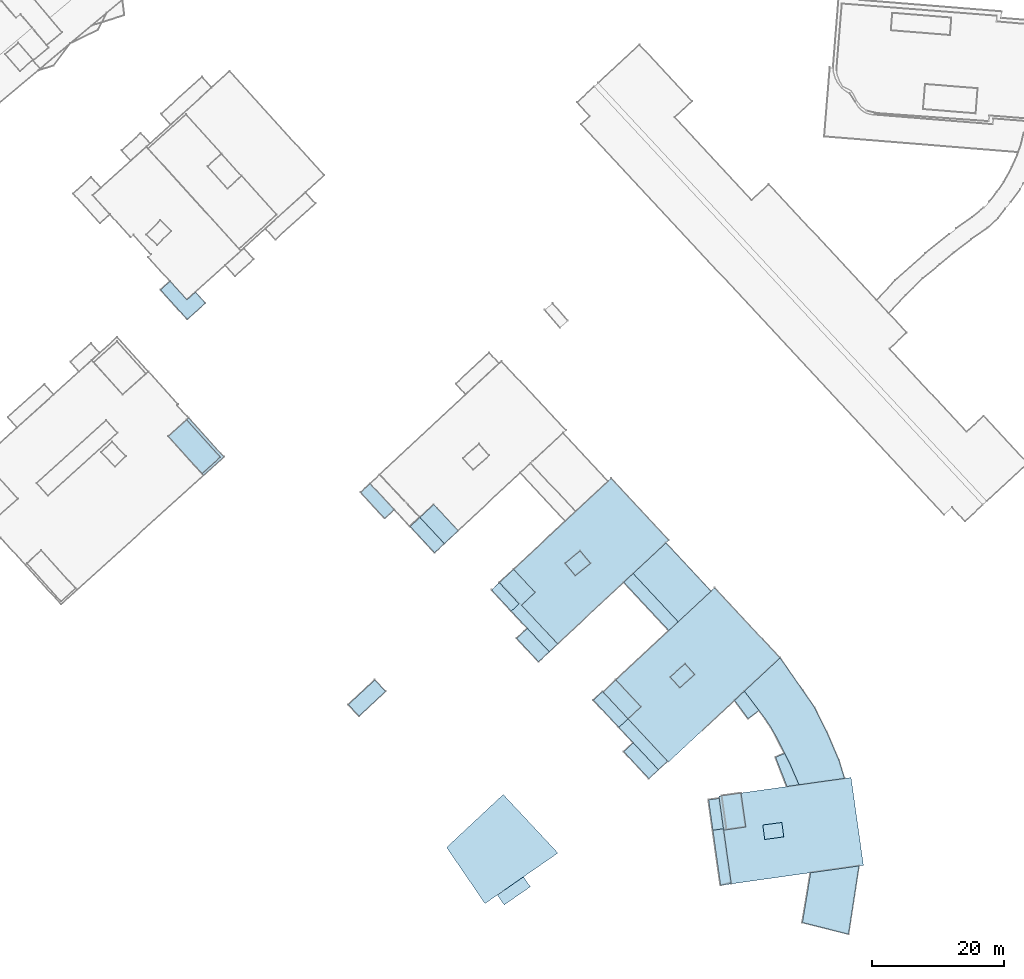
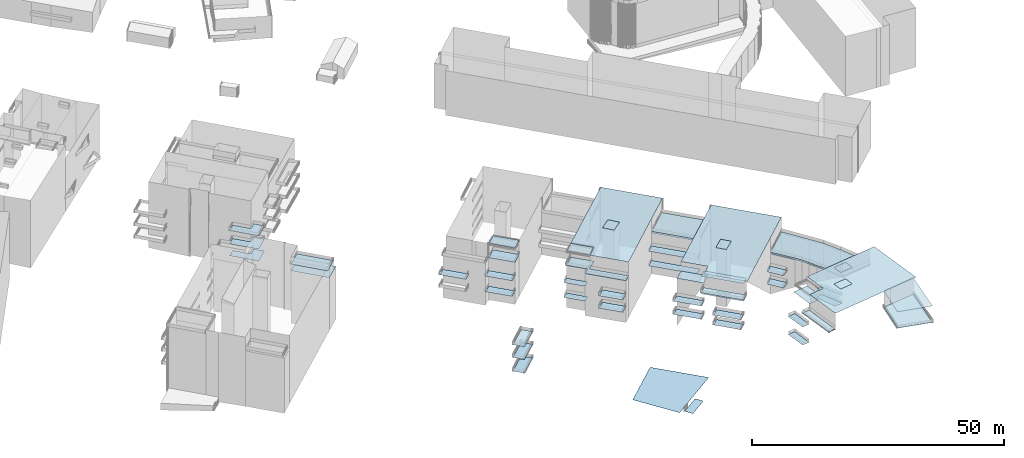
# Not in any storey, part 127 of 136: 105 roofs.
"""IFC2X3 building model written with IfcOpenShell, lengths in metres."""

from ifc_helpers import new_model, entity, si_unit, converted_unit, frame, origin, place, context, subcontext, project, spatial, face_set, surface_model, element, save


model = new_model("IFC2X3")

# Units and contexts
model_context = context("Model", 3, precision=1e-05, world=origin())
body_context = subcontext(model_context, "Body", "Model", "MODEL_VIEW")
ifc_project = project(units=[converted_unit("PLANEANGLEUNIT", "DEGREE", entity("IfcRatioMeasure", 0.0174532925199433), si_unit("PLANEANGLEUNIT", "RADIAN"), dimensions=[0, 0, 0, 0, 0, 0, 0]), si_unit("AREAUNIT", "SQUARE_METRE"), si_unit("LENGTHUNIT", "METRE")], contexts=[model_context])

# Site, building
site_placement = place(None, origin())
site = spatial("IfcSite", under=ifc_project, at=site_placement, Name="_site", CompositionType="ELEMENT")
building_1_placement = place(site_placement, origin())
building_1 = spatial("IfcBuilding", under=site, at=building_1_placement, Name="_building", CompositionType="ELEMENT")

# Roofs
roof_1_placement = place(building_1_placement, origin())
element("IfcRoof", 1, at=roof_1_placement, inside=building_1, Name="Roof", ShapeType="NOTDEFINED", context=body_context, shape_type="SurfaceModel", body=[
    surface_model("IfcFaceBasedSurfaceModel", [(144.0, -39.33, 48.29), (142.61, -40.63, 48.29), (148.62, -47.07, 48.29), (150.01, -45.77, 48.29)], [face_set([[[0, 1, 2, 3]]])]),
])
roof_2_placement = place(building_1_placement, origin())
element("IfcRoof", 2, at=roof_2_placement, inside=building_1, Name="Roof", ShapeType="NOTDEFINED", context=body_context, shape_type="SurfaceModel", body=[
    surface_model("IfcFaceBasedSurfaceModel", [(124.14, -66.09, 42.86), (125.22, -65.34, 42.86), (128.11, -63.34, 42.86), (133.34, -59.72, 42.86), (125.03, -50.83, 42.86), (116.43, -58.87, 42.86), (122.26, -67.399, 42.86)], [face_set([[[0, 1, 2, 3, 4, 5, 6]]])]),
])
for number, where, name in (
    (3, (0.0, 0.0, 0.0), "Roof"),
    (4, (0.0, 0.0, 0.0), "Roof"),
):
    element("IfcRoof", number, at=place(building_1_placement, frame(where)), inside=building_1, Name=name, ShapeType="NOTDEFINED", context=body_context, shape_type="SurfaceModel", body=[
        surface_model("IfcFaceBasedSurfaceModel", [(161.68, -35.13, 44.99), (160.18, -36.52, 44.99), (162.24, -39.3, 44.99), (163.89, -38.06, 44.99)], [face_set([[[0, 1, 2, 3]]])]),
    ])
for number, where, name in (
    (5, (0.0, 0.0, 0.0), "Roof"),
    (6, (0.0, 0.0, 0.0), "Roof"),
):
    element("IfcRoof", number, at=place(building_1_placement, frame(where)), inside=building_1, Name=name, ShapeType="NOTDEFINED", context=body_context, shape_type="SurfaceModel", body=[
        surface_model("IfcFaceBasedSurfaceModel", [(144.0, -39.33, 42.17), (140.13, -35.18, 42.17), (138.73, -36.479, 42.17), (142.61, -40.63, 42.17)], [face_set([[[0, 1, 2, 3]]])]),
    ])
for number, where, name in (
    (7, (0.0, 0.0, 0.0), "Roof"),
    (8, (0.0, 0.0, 0.0), "Roof"),
):
    element("IfcRoof", number, at=place(building_1_placement, frame(where)), inside=building_1, Name=name, ShapeType="NOTDEFINED", context=body_context, shape_type="SurfaceModel", body=[
        surface_model("IfcFaceBasedSurfaceModel", [(148.62, -47.07, 42.74), (144.79, -42.97, 42.74), (143.35, -44.31, 42.74), (147.18, -48.42, 42.74)], [face_set([[[0, 1, 2, 3]]])]),
    ])
for number, where, name in (
    (9, (0.0, 0.0, 0.0), "Roof"),
    (10, (0.0, 0.0, 0.0), "Roof"),
):
    element("IfcRoof", number, at=place(building_1_placement, frame(where)), inside=building_1, Name=name, ShapeType="NOTDEFINED", context=body_context, shape_type="SurfaceModel", body=[
        surface_model("IfcFaceBasedSurfaceModel", [(124.45, -18.64, 41.54), (123.26, -19.75, 41.54), (126.26, -22.96, 41.54), (127.44, -21.86, 41.54)], [face_set([[[0, 1, 2, 3]]])]),
    ])
for number, where, name in (
    (11, (0.0, 0.0, 0.0), "Roof"),
    (12, (0.0, 0.0, 0.0), "Roof"),
):
    element("IfcRoof", number, at=place(building_1_placement, frame(where)), inside=building_1, Name=name, ShapeType="NOTDEFINED", context=body_context, shape_type="SurfaceModel", body=[
        surface_model("IfcFaceBasedSurfaceModel", [(169.98, -49.36, 41.78), (168.54, -46.04, 41.78), (167.8, -44.58, 41.78), (166.41, -45.18, 41.78), (168.15, -49.62, 41.78)], [face_set([[[0, 1, 2, 3, 4]]])]),
    ])
for number, where, name in (
    (13, (0.0, 0.0, 0.0), "Roof"),
    (14, (0.0, 0.0, 0.0), "Roof"),
):
    element("IfcRoof", number, at=place(building_1_placement, frame(where)), inside=building_1, Name=name, ShapeType="NOTDEFINED", context=body_context, shape_type="SurfaceModel", body=[
        surface_model("IfcFaceBasedSurfaceModel", [(161.68, -35.13, 42.01), (160.18, -36.52, 42.01), (162.24, -39.3, 42.01), (163.89, -38.06, 42.01)], [face_set([[[0, 1, 2, 3]]])]),
    ])
for number, where, name in (
    (15, (0.0, 0.0, 0.0), "Roof"),
    (16, (0.0, 0.0, 0.0), "Roof"),
):
    element("IfcRoof", number, at=place(building_1_placement, frame(where)), inside=building_1, Name=name, ShapeType="NOTDEFINED", context=body_context, shape_type="SurfaceModel", body=[
        surface_model("IfcFaceBasedSurfaceModel", [(104.82, -3.59, 45.01), (103.37, -4.939, 45.01), (107.05, -8.89, 45.01), (108.5, -7.54, 45.01)], [face_set([[[0, 1, 2, 3]]])]),
    ])
roof_3_placement = place(building_1_placement, origin())
element("IfcRoof", 17, at=roof_3_placement, inside=building_1, Name="Roof", ShapeType="NOTDEFINED", context=body_context, shape_type="SurfaceModel", body=[
    surface_model("IfcFaceBasedSurfaceModel", [(140.97, -3.229, 51.59), (136.06, -7.81, 51.59), (126.62, -16.62, 51.59), (129.9, -20.13, 51.59), (127.82, -22.06, 51.59), (133.31, -27.95, 51.59), (144.77, -17.25, 51.59), (149.76, -12.6, 51.59), (150.21, -12.18, 51.59), (141.45, -2.78, 51.59)], [face_set([[[0, 1, 2, 3, 4, 5, 6, 7, 8, 9]]])]),
])
for number, where, name in (
    (18, (0.0, 0.0, 0.0), "Roof"),
    (19, (0.0, 0.0, 0.0), "Roof"),
):
    element("IfcRoof", number, at=place(building_1_placement, frame(where)), inside=building_1, Name=name, ShapeType="NOTDEFINED", context=body_context, shape_type="SurfaceModel", body=[
        surface_model("IfcFaceBasedSurfaceModel", [(169.98, -49.36, 43.64), (168.54, -46.04, 43.64), (167.8, -44.58, 43.64), (166.41, -45.18, 43.64), (168.15, -49.62, 43.64)], [face_set([[[0, 1, 2, 3, 4]]])]),
    ])
for number, where, name in (
    (20, (0.0, 0.0, 0.0), "Roof"),
    (21, (0.0, 0.0, 0.0), "Roof"),
):
    element("IfcRoof", number, at=place(building_1_placement, frame(where)), inside=building_1, Name=name, ShapeType="NOTDEFINED", context=body_context, shape_type="SurfaceModel", body=[
        surface_model("IfcFaceBasedSurfaceModel", [(148.62, -47.07, 45.12), (144.79, -42.97, 45.12), (143.35, -44.31, 45.12), (147.18, -48.42, 45.12)], [face_set([[[0, 1, 2, 3]]])]),
    ])
for number, where, name in (
    (22, (0.0, 0.0, 0.0), "Roof"),
    (23, (0.0, 0.0, 0.0), "Roof"),
):
    element("IfcRoof", number, at=place(building_1_placement, frame(where)), inside=building_1, Name=name, ShapeType="NOTDEFINED", context=body_context, shape_type="SurfaceModel", body=[
        surface_model("IfcFaceBasedSurfaceModel", [(105.53, -33.43, 45.18), (101.51, -37.17, 45.18), (103.13, -38.91, 45.18), (107.15, -35.16, 45.18)], [face_set([[[0, 1, 2, 3]]])]),
    ])
for number, where, name in (
    (24, (0.0, 0.0, 0.0), "Roof"),
    (25, (0.0, 0.0, 0.0), "Roof"),
):
    element("IfcRoof", number, at=place(building_1_placement, frame(where)), inside=building_1, Name=name, ShapeType="NOTDEFINED", context=body_context, shape_type="SurfaceModel", body=[
        surface_model("IfcFaceBasedSurfaceModel", [(105.53, -33.43, 41.88), (101.51, -37.17, 41.88), (103.13, -38.91, 41.88), (107.15, -35.16, 41.88)], [face_set([[[0, 1, 2, 3]]])]),
    ])
for number, where, name in (
    (26, (0.0, 0.0, 0.0), "Roof"),
    (27, (0.0, 0.0, 0.0), "Roof"),
):
    element("IfcRoof", number, at=place(building_1_placement, frame(where)), inside=building_1, Name=name, ShapeType="NOTDEFINED", context=body_context, shape_type="SurfaceModel", body=[
        surface_model("IfcFaceBasedSurfaceModel", [(158.5, -56.03, 40.37), (157.85, -51.41, 40.37), (156.23, -51.64, 40.37), (156.88, -56.26, 40.37)], [face_set([[[0, 1, 2, 3]]])]),
    ])
for number, where, name in (
    (28, (0.0, 0.0, 0.0), "Roof"),
    (29, (0.0, 0.0, 0.0), "Roof"),
):
    element("IfcRoof", number, at=place(building_1_placement, frame(where)), inside=building_1, Name=name, ShapeType="NOTDEFINED", context=body_context, shape_type="SurfaceModel", body=[
        surface_model("IfcFaceBasedSurfaceModel", [(112.38, -8.729, 45.18), (110.9, -10.11, 45.18), (114.61, -14.09, 45.18), (116.09, -12.71, 45.18)], [face_set([[[0, 1, 2, 3]]])]),
    ])
for number, where, name in (
    (30, (0.0, 0.0, 0.0), "Roof"),
    (31, (0.0, 0.0, 0.0), "Roof"),
):
    element("IfcRoof", number, at=place(building_1_placement, frame(where)), inside=building_1, Name=name, ShapeType="NOTDEFINED", context=body_context, shape_type="SurfaceModel", body=[
        surface_model("IfcFaceBasedSurfaceModel", [(105.53, -33.43, 48.27), (101.51, -37.17, 48.27), (103.13, -38.91, 48.27), (107.15, -35.16, 48.27)], [face_set([[[0, 1, 2, 3]]])]),
    ])
for number, where, name in (
    (32, (0.0, 0.0, 0.0), "Roof"),
    (33, (0.0, 0.0, 0.0), "Roof"),
):
    element("IfcRoof", number, at=place(building_1_placement, frame(where)), inside=building_1, Name=name, ShapeType="NOTDEFINED", context=body_context, shape_type="SurfaceModel", body=[
        surface_model("IfcFaceBasedSurfaceModel", [(128.7, -25.58, 42.04), (127.08, -27.09, 42.04), (130.41, -30.66, 42.04), (132.03, -29.149, 42.04)], [face_set([[[0, 1, 2, 3]]])]),
    ])
for number, where, name in (
    (34, (0.0, 0.0, 0.0), "Roof"),
    (35, (0.0, 0.0, 0.0), "Roof"),
):
    element("IfcRoof", number, at=place(building_1_placement, frame(where)), inside=building_1, Name=name, ShapeType="NOTDEFINED", context=body_context, shape_type="SurfaceModel", body=[
        surface_model("IfcFaceBasedSurfaceModel", [(158.5, -56.03, 44.74), (157.85, -51.41, 44.74), (156.23, -51.64, 44.74), (156.88, -56.26, 44.74)], [face_set([[[0, 1, 2, 3]]])]),
    ])
roof_4_placement = place(building_1_placement, origin())
element("IfcRoof", 36, at=roof_4_placement, inside=building_1, Name="Roof", ShapeType="NOTDEFINED", context=body_context, shape_type="SurfaceModel", body=[
    surface_model("IfcFaceBasedSurfaceModel", [(158.5, -56.03, 49.79), (158.53, -56.24, 49.79), (161.89, -55.76, 49.79), (161.16, -50.6, 49.79), (157.81, -51.07, 49.79)], [face_set([[[0, 1, 2, 3, 4]]])]),
])
for number, where, name in (
    (37, (0.0, 0.0, 0.0), "Roof"),
    (38, (0.0, 0.0, 0.0), "Roof"),
):
    element("IfcRoof", number, at=place(building_1_placement, frame(where)), inside=building_1, Name=name, ShapeType="NOTDEFINED", context=body_context, shape_type="SurfaceModel", body=[
        surface_model("IfcFaceBasedSurfaceModel", [(144.77, -17.25, 41.46), (143.35, -18.57, 41.46), (150.2, -25.91, 41.46), (151.62, -24.59, 41.46)], [face_set([[[0, 1, 2, 3]]])]),
    ])
for number, where, name in (
    (39, (0.0, 0.0, 0.0), "Roof"),
    (40, (0.0, 0.0, 0.0), "Roof"),
):
    element("IfcRoof", number, at=place(building_1_placement, frame(where)), inside=building_1, Name=name, ShapeType="NOTDEFINED", context=body_context, shape_type="SurfaceModel", body=[
        surface_model("IfcFaceBasedSurfaceModel", [(112.38, -8.729, 41.4), (110.9, -10.11, 41.4), (114.61, -14.09, 41.4), (116.09, -12.71, 41.4)], [face_set([[[0, 1, 2, 3]]])]),
    ])
roof_5_placement = place(building_1_placement, origin())
element("IfcRoof", 41, at=roof_5_placement, inside=building_1, Name="Roof", ShapeType="NOTDEFINED", context=body_context, shape_type="SurfaceModel", body=[
    surface_model("IfcFaceBasedSurfaceModel", [(144.0, -39.33, 49.64), (145.97, -37.49, 49.64), (142.16, -33.42, 49.64), (140.2, -35.25, 49.64)], [face_set([[[0, 1, 2, 3]]])]),
])
for number, where, name in (
    (42, (0.0, 0.0, 0.0), "Roof"),
    (43, (0.0, 0.0, 0.0), "Roof"),
):
    element("IfcRoof", number, at=place(building_1_placement, frame(where)), inside=building_1, Name=name, ShapeType="NOTDEFINED", context=body_context, shape_type="SurfaceModel", body=[
        surface_model("IfcFaceBasedSurfaceModel", [(124.45, -18.64, 45.14), (123.26, -19.75, 45.14), (126.26, -22.96, 45.14), (127.44, -21.86, 45.14)], [face_set([[[0, 1, 2, 3]]])]),
    ])
for number, where, name in (
    (44, (0.0, 0.0, 0.0), "Roof"),
    (45, (0.0, 0.0, 0.0), "Roof"),
):
    element("IfcRoof", number, at=place(building_1_placement, frame(where)), inside=building_1, Name=name, ShapeType="NOTDEFINED", context=body_context, shape_type="SurfaceModel", body=[
        surface_model("IfcFaceBasedSurfaceModel", [(128.7, -25.58, 45.03), (127.08, -27.09, 45.03), (130.41, -30.66, 45.03), (132.03, -29.149, 45.03)], [face_set([[[0, 1, 2, 3]]])]),
    ])
for number, where, name in (
    (46, (0.0, 0.0, 0.0), "Roof"),
    (47, (0.0, 0.0, 0.0), "Roof"),
):
    element("IfcRoof", number, at=place(building_1_placement, frame(where)), inside=building_1, Name=name, ShapeType="NOTDEFINED", context=body_context, shape_type="SurfaceModel", body=[
        surface_model("IfcFaceBasedSurfaceModel", [(144.0, -39.33, 45.37), (140.13, -35.18, 45.37), (138.73, -36.479, 45.37), (142.61, -40.63, 45.37)], [face_set([[[0, 1, 2, 3]]])]),
    ])
for number, where, name in (
    (48, (0.0, 0.0, 0.0), "Roof"),
    (49, (0.0, 0.0, 0.0), "Roof"),
):
    element("IfcRoof", number, at=place(building_1_placement, frame(where)), inside=building_1, Name=name, ShapeType="NOTDEFINED", context=body_context, shape_type="SurfaceModel", body=[
        surface_model("IfcFaceBasedSurfaceModel", [(144.77, -17.25, 44.99), (143.35, -18.57, 44.99), (150.2, -25.91, 44.99), (151.62, -24.59, 44.99)], [face_set([[[0, 1, 2, 3]]])]),
    ])
roof_6_placement = place(building_1_placement, origin())
element("IfcRoof", 50, at=roof_6_placement, inside=building_1, Name="Roof", ShapeType="NOTDEFINED", context=body_context, shape_type="SurfaceModel", body=[
    surface_model("IfcFaceBasedSurfaceModel", [(114.48, -6.77, 48.29), (112.38, -8.729, 48.29), (116.09, -12.71, 48.29), (118.19, -10.75, 48.29)], [face_set([[[0, 1, 2, 3]]])]),
])
roof_7_placement = place(building_1_placement, origin())
element("IfcRoof", 51, at=roof_7_placement, inside=building_1, Name="Roof", ShapeType="NOTDEFINED", context=body_context, shape_type="SurfaceModel", body=[
    surface_model("IfcFaceBasedSurfaceModel", [(133.31, -27.95, 48.26), (127.82, -22.06, 48.26), (129.9, -20.13, 48.26), (126.62, -16.62, 48.26), (124.45, -18.64, 48.26), (127.44, -21.86, 48.26), (126.26, -22.96, 48.26), (132.03, -29.149, 48.26)], [face_set([[[0, 1, 2, 3, 4, 5, 6, 7]]])]),
])
roof_8_placement = place(building_1_placement, origin())
element("IfcRoof", 52, at=roof_8_placement, inside=building_1, Name="Roof", ShapeType="NOTDEFINED", context=body_context, shape_type="SurfaceModel", body=[
    surface_model("IfcFaceBasedSurfaceModel", [(128.11, -63.34, 41.75), (124.14, -66.09, 41.75), (125.18, -67.6, 41.75), (129.15, -64.85, 41.75)], [face_set([[[0, 1, 2, 3]]])]),
])
roof_9_placement = place(building_1_placement, origin())
element("IfcRoof", 53, at=roof_9_placement, inside=building_1, Name="Roof", ShapeType="NOTDEFINED", context=body_context, shape_type="SurfaceModel", body=[
    surface_model("IfcFaceBasedSurfaceModel", [(142.16, -33.42, 51.89), (145.97, -37.49, 51.89), (144.0, -39.33, 51.89), (150.01, -45.77, 51.89), (150.13, -45.899, 51.89), (161.68, -35.13, 51.89), (167.11, -30.07, 51.89), (157.17, -19.42, 51.89), (156.61, -19.939, 51.89), (151.62, -24.59, 51.89)], [face_set([[[0, 1, 2, 3, 4, 5, 6, 7, 8, 9]]])]),
])
roof_10_placement = place(building_1_placement, origin())
element("IfcRoof", 54, at=roof_10_placement, inside=building_1, Name="Roof", ShapeType="NOTDEFINED", context=body_context, shape_type="SurfaceModel", body=[
    surface_model("IfcFaceBasedSurfaceModel", [(161.16, -50.6, 52.04), (161.89, -55.76, 52.04), (158.53, -56.24, 52.04), (159.68, -64.41, 52.04), (171.74, -62.71, 52.04), (173.4, -62.479, 52.04), (179.09, -61.68, 52.04), (179.76, -61.58, 52.04), (177.88, -48.25, 52.04), (176.89, -48.39, 52.04), (169.98, -49.36, 52.04)], [face_set([[[0, 1, 2, 3, 4, 5, 6, 7, 8, 9, 10]]])]),
])
roof_11_placement = place(building_1_placement, origin())
element("IfcRoof", 55, at=roof_11_placement, inside=building_1, Name="Roof", ShapeType="NOTDEFINED", context=body_context, shape_type="SurfaceModel", body=[
    surface_model("IfcFaceBasedSurfaceModel", [(144.77, -17.25, 48.51), (151.62, -24.59, 48.51), (156.61, -19.939, 48.51), (149.76, -12.6, 48.51)], [face_set([[[0, 1, 2, 3]]])]),
])
roof_12_placement = place(building_1_placement, origin())
element("IfcRoof", 56, at=roof_12_placement, inside=building_1, Name="Roof", ShapeType="NOTDEFINED", context=body_context, shape_type="SurfaceModel", body=[
    surface_model("IfcFaceBasedSurfaceModel", [(156.61, -19.939, 48.12), (149.76, -12.6, 48.12), (144.77, -17.25, 48.12), (151.62, -24.59, 48.12)], [face_set([[[0, 1, 2, 3]]])]),
])
roof_13_placement = place(building_1_placement, origin())
element("IfcRoof", 57, at=roof_13_placement, inside=building_1, Name="Roof", ShapeType="NOTDEFINED", context=body_context, shape_type="SurfaceModel", body=[
    surface_model("IfcFaceBasedSurfaceModel", [(176.89, -48.39, 48.04), (176.07, -45.7, 48.04), (174.2, -41.33, 48.04), (172.37, -37.66, 48.04), (170.61, -35.09, 48.04), (167.11, -30.07, 48.04), (161.68, -35.13, 48.04), (164.85, -39.33, 48.04), (165.71, -40.63, 48.04), (166.51, -42.04, 48.04), (167.36, -43.72, 48.04), (168.54, -46.04, 48.04), (169.98, -49.36, 48.04)], [face_set([[[0, 1, 2, 3, 4, 5, 6, 7, 8, 9, 10, 11, 12]]])]),
])

# Building
building_2_placement = place(site_placement, origin())
building_2 = spatial("IfcBuilding", under=site, at=building_2_placement, Name="_building", CompositionType="ELEMENT")

# Roofs
roof_14_placement = place(building_2_placement, origin())
element("IfcRoof", 58, at=roof_14_placement, inside=building_2, Name="Roof", ShapeType="NOTDEFINED", context=body_context, shape_type="SurfaceModel", body=[
    surface_model("IfcFaceBasedSurfaceModel", [(152.68, -30.95, 52.15), (150.4, -32.979, 52.15), (151.88, -34.63, 52.15), (154.15, -32.6, 52.15)], [face_set([[[0, 1, 2, 3]]])]),
])
roof_15_placement = place(building_2_placement, origin())
element("IfcRoof", 59, at=roof_15_placement, inside=building_2, Name="Roof", ShapeType="NOTDEFINED", context=body_context, shape_type="SurfaceModel", body=[
    surface_model("IfcFaceBasedSurfaceModel", [(142.16, -33.42, 51.89), (145.97, -37.49, 51.89), (144.0, -39.33, 51.89), (150.01, -45.77, 51.89), (150.13, -45.899, 51.89), (161.68, -35.13, 51.89), (167.11, -30.07, 51.89), (157.17, -19.42, 51.89), (156.61, -19.939, 51.89), (151.62, -24.59, 51.89)], [face_set([[[0, 1, 2, 3, 4, 5, 6, 7, 8, 9]]])]),
])
for number, where, name in (
    (60, (0.0, 0.0, 0.0), "Roof"),
    (61, (0.0, 0.0, 0.0), "Roof"),
):
    element("IfcRoof", number, at=place(building_2_placement, frame(where)), inside=building_2, Name=name, ShapeType="NOTDEFINED", context=body_context, shape_type="SurfaceModel", body=[
        surface_model("IfcFaceBasedSurfaceModel", [(142.61, -40.63, 48.58), (148.62, -47.07, 48.58), (150.01, -45.77, 48.58), (144.0, -39.33, 48.58)], [face_set([[[0, 1, 2, 3]]])]),
    ])
for number, where, name in (
    (62, (0.0, 0.0, 0.0), "Roof"),
    (63, (0.0, 0.0, 0.0), "Roof"),
):
    element("IfcRoof", number, at=place(building_2_placement, frame(where)), inside=building_2, Name=name, ShapeType="NOTDEFINED", context=body_context, shape_type="SurfaceModel", body=[
        surface_model("IfcFaceBasedSurfaceModel", [(169.98, -49.36, 48.41), (176.89, -48.39, 48.41), (176.07, -45.7, 48.41), (174.2, -41.33, 48.41), (172.37, -37.66, 48.41), (167.11, -30.07, 48.41), (161.68, -35.13, 48.41), (164.85, -39.33, 48.41), (165.71, -40.63, 48.41), (166.51, -42.04, 48.41), (167.8, -44.58, 48.41), (168.42, -45.8, 48.41), (168.54, -46.04, 48.41)], [face_set([[[0, 1, 2, 3, 4, 5, 6, 7, 8, 9, 10, 11, 12]]])]),
    ])
roof_16_placement = place(building_2_placement, origin())
element("IfcRoof", 64, at=roof_16_placement, inside=building_2, Name="Roof", ShapeType="NOTDEFINED", context=body_context, shape_type="SurfaceModel", body=[
    surface_model("IfcFaceBasedSurfaceModel", [(142.61, -40.63, 52.58), (148.62, -47.07, 52.58), (150.01, -45.77, 52.58), (144.0, -39.33, 52.58)], [face_set([[[0, 1, 2, 3]]])]),
])
roof_17_placement = place(building_2_placement, origin())
element("IfcRoof", 65, at=roof_17_placement, inside=building_2, Name="Roof", ShapeType="NOTDEFINED", context=body_context, shape_type="SurfaceModel", body=[
    surface_model("IfcFaceBasedSurfaceModel", [(176.89, -48.39, 48.04), (176.07, -45.7, 48.04), (174.2, -41.33, 48.04), (172.37, -37.66, 48.04), (170.61, -35.09, 48.04), (167.11, -30.07, 48.04), (161.68, -35.13, 48.04), (164.85, -39.33, 48.04), (165.71, -40.63, 48.04), (166.51, -42.04, 48.04), (167.36, -43.72, 48.04), (168.54, -46.04, 48.04), (169.98, -49.36, 48.04)], [face_set([[[0, 1, 2, 3, 4, 5, 6, 7, 8, 9, 10, 11, 12]]])]),
])
roof_18_placement = place(building_2_placement, origin())
element("IfcRoof", 66, at=roof_18_placement, inside=building_2, Name="Roof", ShapeType="NOTDEFINED", context=body_context, shape_type="SurfaceModel", body=[
    surface_model("IfcFaceBasedSurfaceModel", [(152.68, -30.95, 52.15), (150.4, -32.979, 52.15), (151.88, -34.63, 52.15), (154.15, -32.6, 52.15)], [face_set([[[0, 1, 2, 3]]])]),
])

# Building
building_3_placement = place(site_placement, origin())
building_3 = spatial("IfcBuilding", under=site, at=building_3_placement, Name="_building", CompositionType="ELEMENT")

# Roofs
roof_19_placement = place(building_3_placement, origin())
element("IfcRoof", 67, at=roof_19_placement, inside=building_3, Name="Roof", ShapeType="NOTDEFINED", context=body_context, shape_type="SurfaceModel", body=[
    surface_model("IfcFaceBasedSurfaceModel", [(114.48, -6.77, 48.29), (112.38, -8.729, 48.29), (116.09, -12.71, 48.29), (118.19, -10.75, 48.29)], [face_set([[[0, 1, 2, 3]]])]),
])
roof_20_placement = place(building_3_placement, origin())
element("IfcRoof", 68, at=roof_20_placement, inside=building_3, Name="Roof", ShapeType="NOTDEFINED", context=body_context, shape_type="SurfaceModel", body=[
    surface_model("IfcFaceBasedSurfaceModel", [(114.48, -6.77, 51.74), (112.4, -8.71, 51.74), (116.11, -12.689, 51.74), (118.19, -10.75, 51.74)], [face_set([[[0, 1, 2, 3]]])]),
])

# Building
building_4_placement = place(site_placement, origin())
building_4 = spatial("IfcBuilding", under=site, at=building_4_placement, Name="_building", CompositionType="ELEMENT")

# Roof
roof_21_placement = place(building_4_placement, origin())
element("IfcRoof", 69, at=roof_21_placement, inside=building_4, Name="Roof", ShapeType="NOTDEFINED", context=body_context, shape_type="SurfaceModel", body=[
    surface_model("IfcFaceBasedSurfaceModel", [(144.0, -39.33, 49.64), (145.97, -37.49, 49.64), (142.16, -33.42, 49.64), (140.2, -35.25, 49.64)], [face_set([[[0, 1, 2, 3]]])]),
])

# Building
building_5_placement = place(site_placement, origin())
building_5 = spatial("IfcBuilding", under=site, at=building_5_placement, Name="_building", CompositionType="ELEMENT")

# Roofs
roof_22_placement = place(building_5_placement, origin())
element("IfcRoof", 70, at=roof_22_placement, inside=building_5, Name="Roof", ShapeType="NOTDEFINED", context=body_context, shape_type="SurfaceModel", body=[
    surface_model("IfcFaceBasedSurfaceModel", [(126.62, -16.62, 51.59), (124.55, -18.56, 51.59), (127.82, -22.06, 51.59), (129.9, -20.13, 51.59)], [face_set([[[0, 1, 2, 3]]])]),
])
roof_23_placement = place(building_5_placement, origin())
element("IfcRoof", 71, at=roof_23_placement, inside=building_5, Name="Roof", ShapeType="NOTDEFINED", context=body_context, shape_type="SurfaceModel", body=[
    surface_model("IfcFaceBasedSurfaceModel", [(140.97, -3.229, 51.59), (136.06, -7.81, 51.59), (126.62, -16.62, 51.59), (129.9, -20.13, 51.59), (127.82, -22.06, 51.59), (133.31, -27.95, 51.59), (144.77, -17.25, 51.59), (149.76, -12.6, 51.59), (150.21, -12.18, 51.59), (141.45, -2.78, 51.59)], [face_set([[[0, 1, 2, 3, 4, 5, 6, 7, 8, 9]]])]),
])
for number, where, name in (
    (72, (0.0, 0.0, 0.0), "Roof"),
    (73, (0.0, 0.0, 0.0), "Roof"),
):
    element("IfcRoof", number, at=place(building_5_placement, frame(where)), inside=building_5, Name=name, ShapeType="NOTDEFINED", context=body_context, shape_type="SurfaceModel", body=[
        surface_model("IfcFaceBasedSurfaceModel", [(136.74, -13.8, 52.06), (134.44, -15.689, 52.06), (136.0, -17.59, 52.06), (138.3, -15.7, 52.06)], [face_set([[[0, 1, 2, 3]]])]),
    ])
roof_24_placement = place(building_5_placement, origin())
element("IfcRoof", 74, at=roof_24_placement, inside=building_5, Name="Roof", ShapeType="NOTDEFINED", context=body_context, shape_type="SurfaceModel", body=[
    surface_model("IfcFaceBasedSurfaceModel", [(133.31, -27.95, 48.26), (127.82, -22.06, 48.26), (129.9, -20.13, 48.26), (126.62, -16.62, 48.26), (124.45, -18.64, 48.26), (127.44, -21.86, 48.26), (126.26, -22.96, 48.26), (132.03, -29.149, 48.26)], [face_set([[[0, 1, 2, 3, 4, 5, 6, 7]]])]),
])
roof_25_placement = place(building_5_placement, origin())
element("IfcRoof", 75, at=roof_25_placement, inside=building_5, Name="Roof", ShapeType="NOTDEFINED", context=body_context, shape_type="SurfaceModel", body=[
    surface_model("IfcFaceBasedSurfaceModel", [(144.77, -17.25, 48.51), (151.62, -24.59, 48.51), (156.61, -19.939, 48.51), (149.76, -12.6, 48.51)], [face_set([[[0, 1, 2, 3]]])]),
])
roof_26_placement = place(building_5_placement, origin())
element("IfcRoof", 76, at=roof_26_placement, inside=building_5, Name="Roof", ShapeType="NOTDEFINED", context=body_context, shape_type="SurfaceModel", body=[
    surface_model("IfcFaceBasedSurfaceModel", [(156.61, -19.939, 48.12), (149.76, -12.6, 48.12), (144.77, -17.25, 48.12), (151.62, -24.59, 48.12)], [face_set([[[0, 1, 2, 3]]])]),
])

# Building
building_6_placement = place(site_placement, origin())
building_6 = spatial("IfcBuilding", under=site, at=building_6_placement, Name="_building", CompositionType="ELEMENT")

# Roofs
for number, where, name in (
    (77, (0.0, 0.0, 0.0), "Roof"),
    (78, (0.0, 0.0, 0.0), "Roof"),
):
    element("IfcRoof", number, at=place(building_6_placement, frame(where)), inside=building_6, Name=name, ShapeType="NOTDEFINED", context=body_context, shape_type="SurfaceModel", body=[
        surface_model("IfcFaceBasedSurfaceModel", [(126.62, -16.62, 48.11), (124.45, -18.64, 48.11), (127.44, -21.86, 48.11), (126.26, -22.96, 48.11), (132.03, -29.149, 48.11), (133.31, -27.95, 48.11), (127.82, -22.06, 48.11), (129.89, -20.12, 48.11)], [face_set([[[0, 1, 2, 3, 4, 5, 6, 7]]])]),
    ])

# Building
building_7_placement = place(site_placement, origin())
building_7 = spatial("IfcBuilding", under=site, at=building_7_placement, Name="_building", CompositionType="ELEMENT")

# Roofs
roof_27_placement = place(building_7_placement, origin())
element("IfcRoof", 79, at=roof_27_placement, inside=building_7, Name="Roof", ShapeType="NOTDEFINED", context=body_context, shape_type="SurfaceModel", body=[
    surface_model("IfcFaceBasedSurfaceModel", [(114.48, -6.77, 51.74), (112.4, -8.71, 51.74), (116.11, -12.689, 51.74), (118.19, -10.75, 51.74)], [face_set([[[0, 1, 2, 3]]])]),
])
roof_28_placement = place(building_7_placement, origin())
element("IfcRoof", 80, at=roof_28_placement, inside=building_7, Name="Roof", ShapeType="NOTDEFINED", context=body_context, shape_type="SurfaceModel", body=[
    surface_model("IfcFaceBasedSurfaceModel", [(112.38, -8.729, 48.29), (116.09, -12.71, 48.29), (118.19, -10.75, 48.29), (114.48, -6.77, 48.29)], [face_set([[[0, 1, 2, 3]]])]),
])

# Building
building_8_placement = place(site_placement, origin())
building_8 = spatial("IfcBuilding", under=site, at=building_8_placement, Name="_building", CompositionType="ELEMENT")

# Roofs
for number, where, name in (
    (81, (0.0, 0.0, 0.0), "Roof"),
    (82, (0.0, 0.0, 0.0), "Roof"),
):
    element("IfcRoof", number, at=place(building_8_placement, frame(where)), inside=building_8, Name=name, ShapeType="NOTDEFINED", context=body_context, shape_type="SurfaceModel", body=[
        surface_model("IfcFaceBasedSurfaceModel", [(78.28, 25.5, 41.6), (76.98, 24.33, 41.6), (74.42, 27.16, 41.6), (72.97, 25.851, 41.6), (77.04, 21.36, 41.6), (79.78, 23.84, 41.6)], [face_set([[[0, 1, 2, 3, 4, 5]]])]),
    ])
for number, where, name in (
    (83, (0.0, 0.0, 0.0), "Roof"),
    (84, (0.0, 0.0, 0.0), "Roof"),
):
    element("IfcRoof", number, at=place(building_8_placement, frame(where)), inside=building_8, Name=name, ShapeType="NOTDEFINED", context=body_context, shape_type="SurfaceModel", body=[
        surface_model("IfcFaceBasedSurfaceModel", [(78.28, 25.5, 47.7), (76.98, 24.33, 47.7), (74.42, 27.16, 47.7), (72.97, 25.851, 47.7), (77.04, 21.36, 47.7), (79.78, 23.84, 47.7)], [face_set([[[0, 1, 2, 3, 4, 5]]])]),
    ])
for number, where, name in (
    (85, (0.0, 0.0, 0.0), "Roof"),
    (86, (0.0, 0.0, 0.0), "Roof"),
):
    element("IfcRoof", number, at=place(building_8_placement, frame(where)), inside=building_8, Name=name, ShapeType="NOTDEFINED", context=body_context, shape_type="SurfaceModel", body=[
        surface_model("IfcFaceBasedSurfaceModel", [(78.28, 25.5, 44.48), (76.98, 24.33, 44.48), (74.42, 27.16, 44.48), (72.97, 25.851, 44.48), (77.04, 21.36, 44.48), (79.78, 23.84, 44.48)], [face_set([[[0, 1, 2, 3, 4, 5]]])]),
    ])

# Building
building_9_placement = place(site_placement, origin())
building_9 = spatial("IfcBuilding", under=site, at=building_9_placement, Name="_building", CompositionType="ELEMENT")

# Roofs
for number, where, name in (
    (87, (0.0, 0.0, 0.0), "Roof"),
    (88, (0.0, 0.0, 0.0), "Roof"),
):
    element("IfcRoof", number, at=place(building_9_placement, frame(where)), inside=building_9, Name=name, ShapeType="NOTDEFINED", context=body_context, shape_type="SurfaceModel", body=[
        surface_model("IfcFaceBasedSurfaceModel", [(77.26, 6.38, 51.06), (74.16, 3.58, 51.06), (79.53, -2.34, 51.06), (82.62, 0.46, 51.06)], [face_set([[[0, 1, 2, 3]]])]),
    ])
for number, where, name in (
    (89, (0.0, 0.0, 0.0), "Roof"),
    (90, (0.0, 0.0, 0.0), "Roof"),
):
    element("IfcRoof", number, at=place(building_9_placement, frame(where)), inside=building_9, Name=name, ShapeType="NOTDEFINED", context=body_context, shape_type="SurfaceModel", body=[
        surface_model("IfcFaceBasedSurfaceModel", [(82.07, 0.44, 52.67), (76.94, 6.101, 52.67), (74.16, 3.58, 52.67), (79.29, -2.08, 52.67)], [face_set([[[0, 1, 2, 3]]])]),
    ])

# Building
building_10_placement = place(site_placement, origin())
building_10 = spatial("IfcBuilding", under=site, at=building_10_placement, Name="_building", CompositionType="ELEMENT")

# Roofs
for number, where, name in (
    (91, (0.0, 0.0, 0.0), "Roof"),
    (92, (0.0, 0.0, 0.0), "Roof"),
):
    element("IfcRoof", number, at=place(building_10_placement, frame(where)), inside=building_10, Name=name, ShapeType="NOTDEFINED", context=body_context, shape_type="SurfaceModel", body=[
        surface_model("IfcFaceBasedSurfaceModel", [(179.09, -61.68, 48.27), (173.4, -62.479, 48.27), (171.74, -62.71, 48.27), (170.49, -70.29, 48.27), (177.5, -72.06, 48.27)], [face_set([[[0, 1, 2, 3, 4]]])]),
    ])
for number, where, name in (
    (93, (0.0, 0.0, 0.0), "Roof"),
    (94, (0.0, 0.0, 0.0), "Roof"),
):
    element("IfcRoof", number, at=place(building_10_placement, frame(where)), inside=building_10, Name=name, ShapeType="NOTDEFINED", context=body_context, shape_type="SurfaceModel", body=[
        surface_model("IfcFaceBasedSurfaceModel", [(167.66, -57.27, 52.04), (167.37, -55.08, 52.04), (164.47, -55.46, 52.04), (164.76, -57.66, 52.04)], [face_set([[[0, 1, 2, 3]]])]),
    ])
roof_29_placement = place(building_10_placement, origin())
element("IfcRoof", 95, at=roof_29_placement, inside=building_10, Name="Roof", ShapeType="NOTDEFINED", context=body_context, shape_type="SurfaceModel", body=[
    surface_model("IfcFaceBasedSurfaceModel", [(158.5, -56.03, 49.79), (158.53, -56.24, 49.79), (161.89, -55.76, 49.79), (161.16, -50.6, 49.79), (157.81, -51.07, 49.79)], [face_set([[[0, 1, 2, 3, 4]]])]),
])
for number, where, name in (
    (96, (0.0, 0.0, 0.0), "Roof"),
    (97, (0.0, 0.0, 0.0), "Roof"),
):
    element("IfcRoof", number, at=place(building_10_placement, frame(where)), inside=building_10, Name=name, ShapeType="NOTDEFINED", context=body_context, shape_type="SurfaceModel", body=[
        surface_model("IfcFaceBasedSurfaceModel", [(158.5, -56.03, 48.2), (156.88, -56.26, 48.2), (158.06, -64.64, 48.2), (159.65, -64.2, 48.2), (158.53, -56.24, 48.2)], [face_set([[[0, 1, 2, 3, 4]]])]),
    ])
roof_30_placement = place(building_10_placement, origin())
element("IfcRoof", 98, at=roof_30_placement, inside=building_10, Name="Roof", ShapeType="NOTDEFINED", context=body_context, shape_type="SurfaceModel", body=[
    surface_model("IfcFaceBasedSurfaceModel", [(161.16, -50.6, 52.04), (161.89, -55.76, 52.04), (158.53, -56.24, 52.04), (159.68, -64.41, 52.04), (171.74, -62.71, 52.04), (173.4, -62.479, 52.04), (179.09, -61.68, 52.04), (179.76, -61.58, 52.04), (177.88, -48.25, 52.04), (176.89, -48.39, 52.04), (169.98, -49.36, 52.04)], [face_set([[[0, 1, 2, 3, 4, 5, 6, 7, 8, 9, 10]]])]),
])
for number, where, name in (
    (99, (0.0, 0.0, 0.0), "Roof"),
    (100, (0.0, 0.0, 0.0), "Roof"),
):
    element("IfcRoof", number, at=place(building_10_placement, frame(where)), inside=building_10, Name=name, ShapeType="NOTDEFINED", context=body_context, shape_type="SurfaceModel", body=[
        surface_model("IfcFaceBasedSurfaceModel", [(179.09, -61.68, 48.2), (171.74, -62.71, 48.2), (170.49, -70.29, 48.2), (177.5, -72.06, 48.2)], [face_set([[[0, 1, 2, 3]]])]),
    ])
roof_31_placement = place(building_10_placement, origin())
element("IfcRoof", 101, at=roof_31_placement, inside=building_10, Name="Roof", ShapeType="NOTDEFINED", context=body_context, shape_type="SurfaceModel", body=[
    surface_model("IfcFaceBasedSurfaceModel", [(179.09, -61.68, 52.2), (171.74, -62.71, 52.2), (170.49, -70.29, 52.2), (177.5, -72.06, 52.2)], [face_set([[[0, 1, 2, 3]]])]),
])
roof_32_placement = place(building_10_placement, origin())
element("IfcRoof", 102, at=roof_32_placement, inside=building_10, Name="Roof", ShapeType="NOTDEFINED", context=body_context, shape_type="SurfaceModel", body=[
    surface_model("IfcFaceBasedSurfaceModel", [(167.66, -57.27, 56.04), (167.37, -55.08, 56.04), (164.47, -55.46, 56.04), (164.76, -57.66, 56.04)], [face_set([[[0, 1, 2, 3]]])]),
])
for number, where, name in (
    (103, (0.0, 0.0, 0.0), "Roof"),
    (104, (0.0, 0.0, 0.0), "Roof"),
):
    element("IfcRoof", number, at=place(building_10_placement, frame(where)), inside=building_10, Name=name, ShapeType="NOTDEFINED", context=body_context, shape_type="SurfaceModel", body=[
        surface_model("IfcFaceBasedSurfaceModel", [(158.5, -56.03, 48.1), (156.88, -56.26, 48.1), (158.06, -64.64, 48.1), (159.68, -64.41, 48.1), (158.53, -56.24, 48.1)], [face_set([[[0, 1, 2, 3, 4]]])]),
    ])

# Building
building_11_placement = place(site_placement, origin())
building_11 = spatial("IfcBuilding", under=site, at=building_11_placement, Name="_building", CompositionType="ELEMENT")

# Roof
roof_33_placement = place(building_11_placement, origin())
element("IfcRoof", 105, at=roof_33_placement, inside=building_11, Name="Roof", ShapeType="NOTDEFINED", context=body_context, shape_type="SurfaceModel", body=[
    surface_model("IfcFaceBasedSurfaceModel", [(128.11, -63.34, 41.75), (124.14, -66.09, 41.75), (125.18, -67.6, 41.75), (129.15, -64.85, 41.75)], [face_set([[[0, 1, 2, 3]]])]),
])

save(model, "model.ifc")
